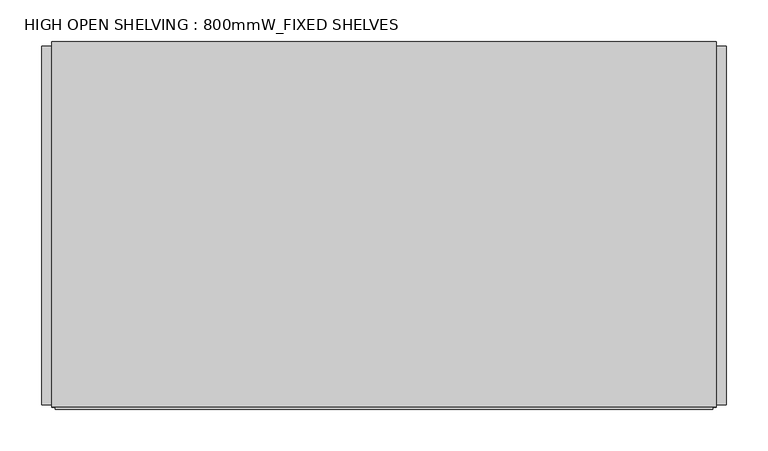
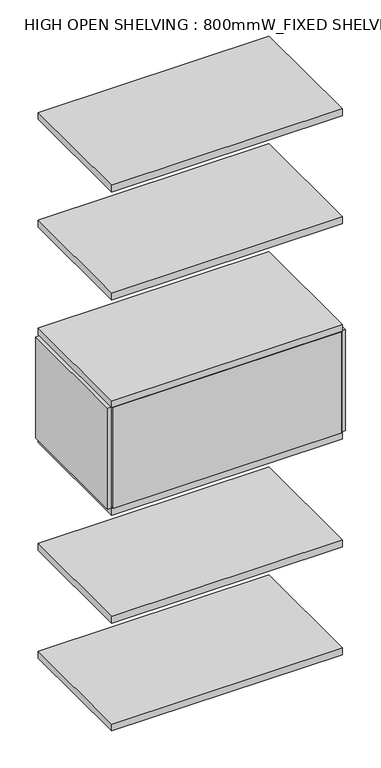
"""IFC4 building model written with IfcOpenShell, lengths in millimetres: furniture geometry, HIGH OPEN SHELVING : 800mmW_FIXED SHELVES."""

from ifc_helpers import new_model, si_unit, frame, origin, place, context, project, spatial, polyline, outline, extrude, source, transform, mapped, element, save


def high_open_shelving_800mmw_fixed_shelves_21c35872(model_context):
    return source(origin(), model_context, "Body", "SweptSolid", [
        extrude(outline(polyline([(412.0, 214.7757931), (412.0, -217.1931665), (400.0, -217.1931665), (400.0, 214.7757931), (412.0, 214.7757931)])), frame((0.0, 0.0, 808.0), z_axis=(0.0, 0.0, 1.0), x_axis=(1.0, 0.0, 0.0)), (0.0, 0.0, 1.0), 370.0),
        extrude(outline(polyline([(400.0, -220.0), (-400.0, -220.0), (-400.0, 220.0), (400.0, 220.0), (400.0, -220.0)])), frame((0.0, 0.0, -7.0), z_axis=(0.0, 0.0, 1.0), x_axis=(1.0, 0.0, 0.0)), (0.0, 0.0, 1.0), 25.0),
        extrude(outline(polyline([(400.0, -220.0), (-400.0, -220.0), (-400.0, 220.0), (400.0, 220.0), (400.0, -220.0)])), frame((0.0, 0.0, 388.0), z_axis=(0.0, 0.0, 1.0), x_axis=(1.0, 0.0, 0.0)), (0.0, 0.0, 1.0), 25.0),
        extrude(outline(polyline([(400.0, -220.0), (-400.0, -220.0), (-400.0, 220.0), (400.0, 220.0), (400.0, -220.0)])), frame((0.0, 0.0, 783.0), z_axis=(0.0, 0.0, 1.0), x_axis=(1.0, 0.0, 0.0)), (0.0, 0.0, 1.0), 25.0),
        extrude(outline(polyline([(400.0, -220.0), (-400.0, -220.0), (-400.0, 220.0), (400.0, 220.0), (400.0, -220.0)])), frame((0.0, 0.0, 1178.0), z_axis=(0.0, 0.0, 1.0), x_axis=(1.0, 0.0, 0.0)), (0.0, 0.0, 1.0), 25.0),
        extrude(outline(polyline([(400.0, -220.0), (-400.0, -220.0), (-400.0, 220.0), (400.0, 220.0), (400.0, -220.0)])), frame((0.0, 0.0, 1573.0), z_axis=(0.0, 0.0, 1.0), x_axis=(1.0, 0.0, 0.0)), (0.0, 0.0, 1.0), 25.0),
        extrude(outline(polyline([(-400.0, 214.7757931), (-400.0, -217.1931665), (-412.0, -217.1931665), (-412.0, 214.7757931), (-400.0, 214.7757931)])), frame((0.0, 0.0, 808.0), z_axis=(0.0, 0.0, 1.0), x_axis=(1.0, 0.0, 0.0)), (0.0, 0.0, 1.0), 370.0),
        extrude(outline(polyline([(395.4939356, -222.7282814), (-395.4939356, -222.7282814), (-395.4939356, -210.7282814), (395.4939356, -210.7282814), (395.4939356, -222.7282814)])), frame((0.0, 0.0, 808.0), z_axis=(0.0, 0.0, 1.0), x_axis=(1.0, 0.0, 0.0)), (0.0, 0.0, 1.0), 370.0),
        extrude(outline(polyline([(400.0, -220.0), (-400.0, -220.0), (-400.0, 220.0), (400.0, 220.0), (400.0, -220.0)])), frame((0.0, 0.0, 1967.9911043), z_axis=(0.0, 0.0, 1.0), x_axis=(1.0, 0.0, 0.0)), (0.0, 0.0, 1.0), 25.0),
    ])


if __name__ == "__main__":
    model = new_model("IFC4")
    model_context = context("Model", 3, world=origin())
    ifc_project = project(units=[si_unit("LENGTHUNIT", "METRE", prefix="MILLI")], contexts=[model_context])
    site = spatial("IfcSite", under=ifc_project)
    building = spatial("IfcBuilding", under=site)
    placement = place(None, origin())
    high_open_shelving_800mmw_fixed_shelves_shape = high_open_shelving_800mmw_fixed_shelves_21c35872(model_context)
    element("IfcFurniture", 1, ObjectType="HIGH OPEN SHELVING : 800mmW_FIXED SHELVES", at=placement, inside=building, context=model_context, shape_type="MappedRepresentation", body=[
        mapped(high_open_shelving_800mmw_fixed_shelves_shape, transform((0.0, 0.0, 0.0), x_axis=(1.0, 0.0, 0.0), y_axis=(0.0, 1.0, 0.0), z_axis=(0.0, 0.0, 1.0))),
    ])
    save(model, "model.ifc")
